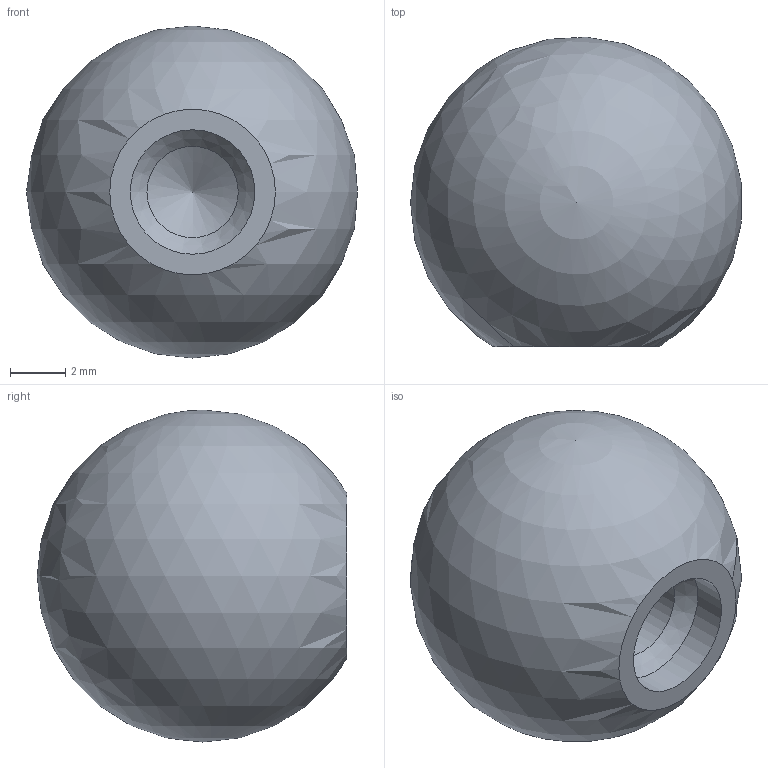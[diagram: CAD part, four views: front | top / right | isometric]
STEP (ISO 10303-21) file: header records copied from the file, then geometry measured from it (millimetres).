
FILE_DESCRIPTION (( 'STEP AP214' ), '1' );
FILE_NAME ('319-KU-12-M4-C.step', '2019-04-24T08:50:35', ( 'user' ), ( '' ), 'SwSTEP 2.0', 'SolidWorks 2019', '' );
FILE_SCHEMA (( 'AUTOMOTIVE_DESIGN' ));
Length unit declared in the file: millimetre
Products named in the file (1): 319-KU-12-M4-C
Bounding box: 11.96 x 11.19 x 12 mm (x, y, z)
Volume: 811.1 mm3; surface area: 536.1 mm2
Topology: 1 solids, 1 shells, 6 faces, 15 edges, 10 vertices
Faces by surface type: cone 2, cylinder 2, plane 1, sphere 1
Full cylindrical faces by diameter (mm): 3.3 x1, 4.5 x1
Entity records: 159 total; most frequent: DIRECTION 24, CARTESIAN_POINT 17, AXIS2_PLACEMENT_3D 12, EDGE_LOOP 10, ORIENTED_EDGE 10, FACE_OUTER_BOUND 8, ADVANCED_FACE 6, EDGE_CURVE 5
